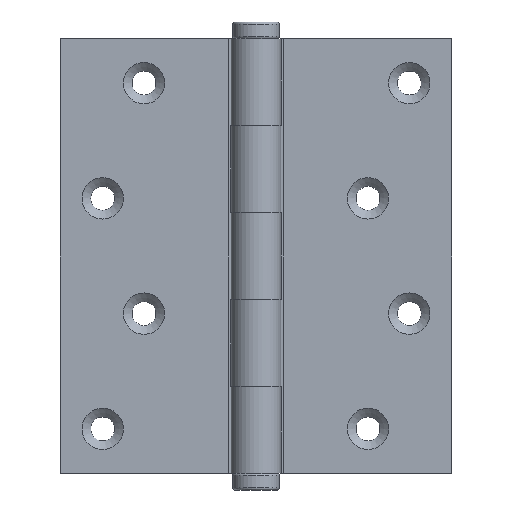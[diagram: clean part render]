
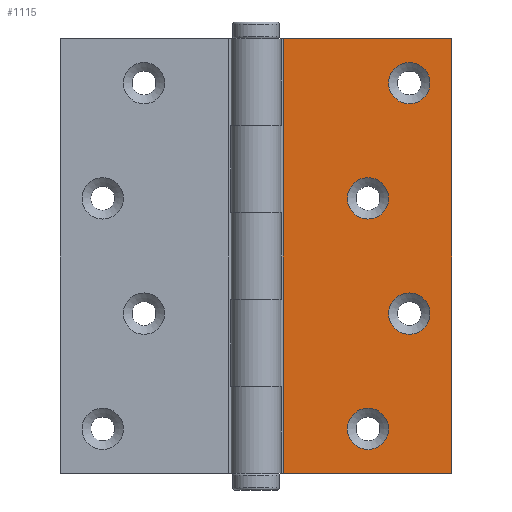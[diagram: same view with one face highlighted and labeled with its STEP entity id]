
A CAD part, front view. The second image highlights one B-rep face of the part: STEP entity #1115.
In plain terms, the highlighted planar face has unit normal (0, -1, 0) as drawn and (0, 1, 0) by its records, which use the part's own axes.
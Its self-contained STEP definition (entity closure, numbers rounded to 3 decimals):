
#45=FACE_BOUND('',#214,.T.);
#46=FACE_BOUND('',#215,.T.);
#47=FACE_BOUND('',#216,.T.);
#48=FACE_BOUND('',#217,.T.);
#132=FACE_OUTER_BOUND('',#213,.T.);
#213=EDGE_LOOP('',(#876,#877,#878,#879));
#214=EDGE_LOOP('',(#880));
#215=EDGE_LOOP('',(#881));
#216=EDGE_LOOP('',(#882));
#217=EDGE_LOOP('',(#883));
#304=LINE('',#1764,#374);
#316=LINE('',#1822,#386);
#317=LINE('',#1826,#387);
#318=LINE('',#1827,#388);
#374=VECTOR('',#1384,38.755);
#386=VECTOR('',#1458,100.);
#387=VECTOR('',#1463,100.);
#388=VECTOR('',#1464,38.755);
#444=CIRCLE('',#1196,4.75);
#447=CIRCLE('',#1201,4.75);
#450=CIRCLE('',#1206,4.75);
#453=CIRCLE('',#1211,4.75);
#534=VERTEX_POINT('',#1761);
#535=VERTEX_POINT('',#1763);
#536=VERTEX_POINT('',#1781);
#539=VERTEX_POINT('',#1789);
#542=VERTEX_POINT('',#1797);
#545=VERTEX_POINT('',#1805);
#550=VERTEX_POINT('',#1821);
#551=VERTEX_POINT('',#1825);
#649=EDGE_CURVE('',#534,#535,#304,.T.);
#659=EDGE_CURVE('',#536,#536,#444,.T.);
#662=EDGE_CURVE('',#539,#539,#447,.T.);
#665=EDGE_CURVE('',#542,#542,#450,.T.);
#668=EDGE_CURVE('',#545,#545,#453,.T.);
#675=EDGE_CURVE('',#535,#550,#316,.T.);
#677=EDGE_CURVE('',#551,#534,#317,.T.);
#678=EDGE_CURVE('',#550,#551,#318,.T.);
#876=ORIENTED_EDGE('',*,*,#675,.F.);
#877=ORIENTED_EDGE('',*,*,#649,.F.);
#878=ORIENTED_EDGE('',*,*,#677,.F.);
#879=ORIENTED_EDGE('',*,*,#678,.F.);
#880=ORIENTED_EDGE('',*,*,#659,.T.);
#881=ORIENTED_EDGE('',*,*,#662,.T.);
#882=ORIENTED_EDGE('',*,*,#665,.T.);
#883=ORIENTED_EDGE('',*,*,#668,.T.);
#1069=PLANE('',#1220);
#1115=ADVANCED_FACE('',(#132,#45,#46,#47,#48),#1069,.T.);
#1196=AXIS2_PLACEMENT_3D('',#1782,#1409,#1410);
#1201=AXIS2_PLACEMENT_3D('',#1790,#1419,#1420);
#1206=AXIS2_PLACEMENT_3D('',#1798,#1429,#1430);
#1211=AXIS2_PLACEMENT_3D('',#1806,#1439,#1440);
#1220=AXIS2_PLACEMENT_3D('',#1824,#1461,#1462);
#1384=DIRECTION('',(-1.,0.,0.));
#1409=DIRECTION('center_axis',(0.,-1.,0.));
#1410=DIRECTION('ref_axis',(1.,0.,0.));
#1419=DIRECTION('center_axis',(0.,-1.,0.));
#1420=DIRECTION('ref_axis',(1.,0.,0.));
#1429=DIRECTION('center_axis',(0.,-1.,0.));
#1430=DIRECTION('ref_axis',(1.,0.,0.));
#1439=DIRECTION('center_axis',(0.,-1.,0.));
#1440=DIRECTION('ref_axis',(1.,0.,0.));
#1458=DIRECTION('',(0.,0.,-1.));
#1461=DIRECTION('center_axis',(0.,1.,0.));
#1462=DIRECTION('ref_axis',(-1.,0.,0.));
#1463=DIRECTION('',(0.,0.,1.));
#1464=DIRECTION('',(1.,0.,0.));
#1761=CARTESIAN_POINT('',(45.,-1.75,50.));
#1763=CARTESIAN_POINT('',(6.245,-1.75,50.));
#1764=CARTESIAN_POINT('',(45.,-1.75,50.));
#1781=CARTESIAN_POINT('',(30.5,-1.75,39.75));
#1782=CARTESIAN_POINT('Origin',(25.75,-1.75,39.75));
#1789=CARTESIAN_POINT('',(40.,-1.75,-39.75));
#1790=CARTESIAN_POINT('Origin',(35.25,-1.75,-39.75));
#1797=CARTESIAN_POINT('',(40.,-1.75,13.25));
#1798=CARTESIAN_POINT('Origin',(35.25,-1.75,13.25));
#1805=CARTESIAN_POINT('',(30.5,-1.75,-13.25));
#1806=CARTESIAN_POINT('Origin',(25.75,-1.75,-13.25));
#1821=CARTESIAN_POINT('',(6.245,-1.75,-50.));
#1822=CARTESIAN_POINT('',(6.245,-1.75,0.));
#1824=CARTESIAN_POINT('Origin',(5.477,-1.75,0.));
#1825=CARTESIAN_POINT('',(45.,-1.75,-50.));
#1826=CARTESIAN_POINT('',(45.,-1.75,0.));
#1827=CARTESIAN_POINT('',(45.,-1.75,-50.));
